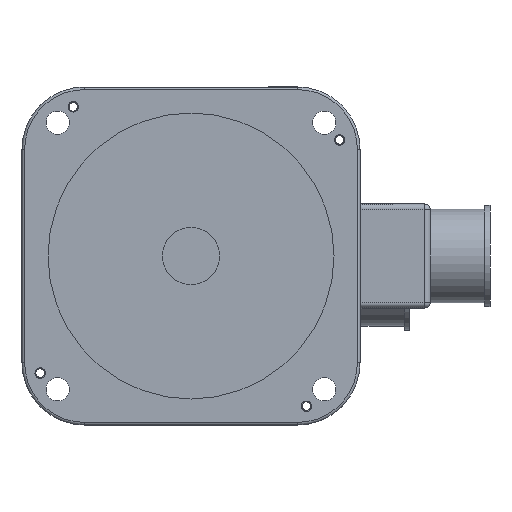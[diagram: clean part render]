
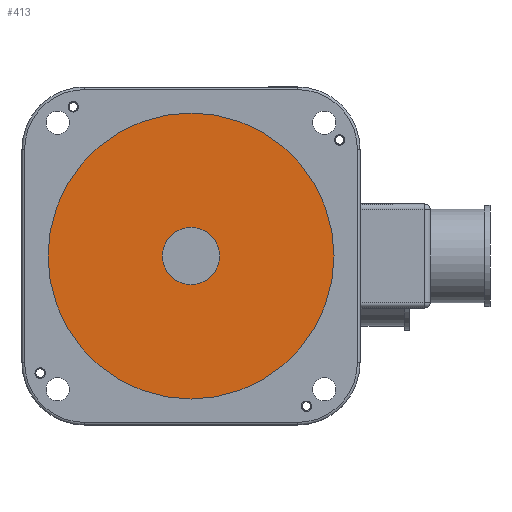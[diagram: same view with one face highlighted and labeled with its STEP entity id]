
A CAD part, left-side view. The second image highlights one B-rep face of the part: STEP entity #413.
In plain terms, the highlighted planar face has unit normal (-1, 0, 0).
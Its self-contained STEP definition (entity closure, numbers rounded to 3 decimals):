
#330=FACE_BOUND('',#929,.T.);
#331=FACE_BOUND('',#930,.T.);
#413=ADVANCED_FACE('',(#330,#331),#637,.F.);
#637=PLANE('',#3910);
#929=EDGE_LOOP('',(#1531));
#930=EDGE_LOOP('',(#1532));
#1233=CIRCLE('',#3903,11.);
#1236=CIRCLE('',#3908,55.);
#1531=ORIENTED_EDGE('',*,*,#2910,.T.);
#1532=ORIENTED_EDGE('',*,*,#2913,.F.);
#2570=VERTEX_POINT('',#5764);
#2573=VERTEX_POINT('',#5772);
#2910=EDGE_CURVE('',#2570,#2570,#1233,.T.);
#2913=EDGE_CURVE('',#2573,#2573,#1236,.T.);
#3903=AXIS2_PLACEMENT_3D('',#5763,#4514,#4515);
#3908=AXIS2_PLACEMENT_3D('',#5771,#4524,#4525);
#3910=AXIS2_PLACEMENT_3D('',#5774,#4528,#4529);
#4514=DIRECTION('',(1.,0.,0.));
#4515=DIRECTION('',(0.,1.,0.));
#4524=DIRECTION('',(1.,0.,0.));
#4525=DIRECTION('',(0.,1.,0.));
#4528=DIRECTION('',(1.,0.,0.));
#4529=DIRECTION('',(0.,0.,-1.));
#5763=CARTESIAN_POINT('',(52.,0.,0.));
#5764=CARTESIAN_POINT('',(52.,11.,0.));
#5771=CARTESIAN_POINT('',(52.,0.,0.));
#5772=CARTESIAN_POINT('',(52.,55.,0.));
#5774=CARTESIAN_POINT('',(52.,0.,0.));
